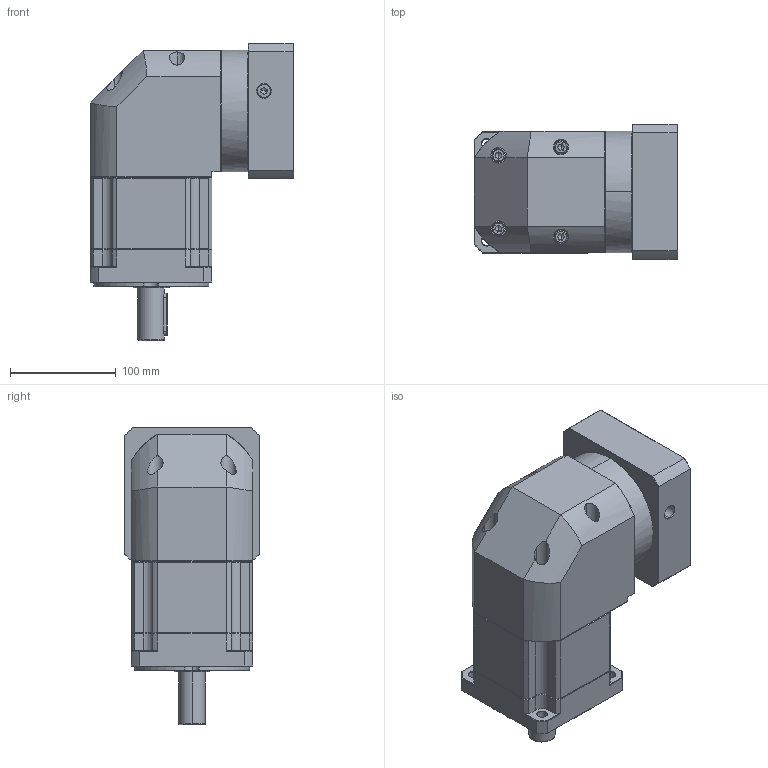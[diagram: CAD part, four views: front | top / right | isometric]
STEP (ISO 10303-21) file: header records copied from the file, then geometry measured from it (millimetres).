
FILE_DESCRIPTION (( 'STEP AP214' ), '1' );
FILE_NAME ('ZBR115A-D25-L2-P2-19-110-145-M8.step', '2023-08-26T12:32:01', ( '' ), ( '' ), 'SwSTEP 2.0', 'SolidWorks 2016', '' );
FILE_SCHEMA (( 'AUTOMOTIVE_DESIGN' ));
Length unit declared in the file: millimetre
Products named in the file (1): ZBR115A-D25-L2-P2-19-110-145-M8
Bounding box: 192.4 x 128 x 281.5 mm (x, y, z)
Volume: 3372254.3 mm3; surface area: 266095.5 mm2
Topology: 6 solids, 6 shells, 2379 faces, 6224 edges, 3949 vertices
Faces by surface type: plane 1139, cylinder 439, bspline 425, cone 368, torus 8
Entity records: 127949 total; most frequent: CARTESIAN_POINT 46915, ORIENTED_EDGE 12388, DIRECTION 9761, EDGE_CURVE 6194, VECTOR 3989, LINE 3989, VERTEX_POINT 3949, AXIS2_PLACEMENT_3D 2886
